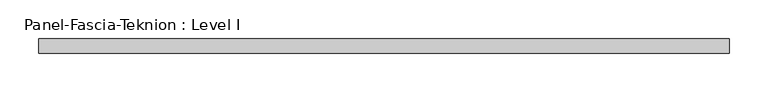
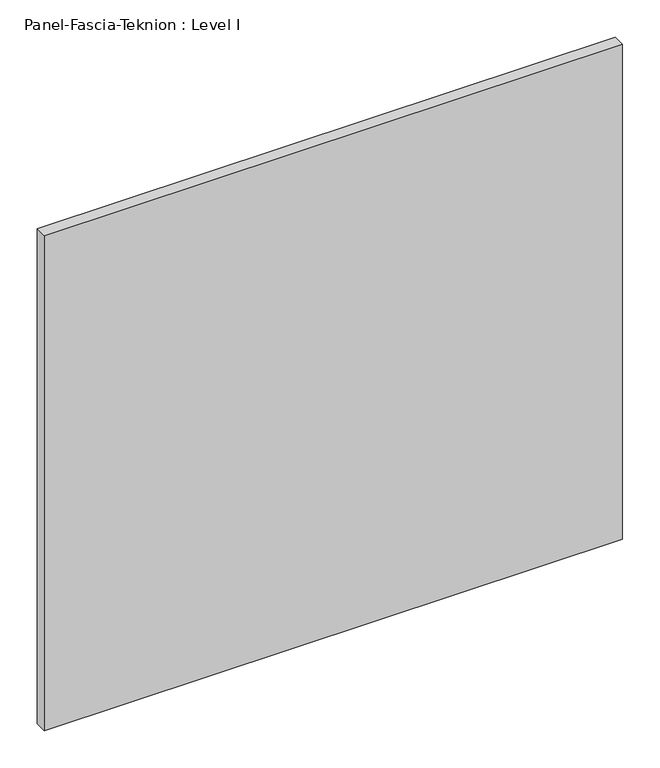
"""IFC4 building model written with IfcOpenShell, lengths in millimetres: proxy geometry, Panel-Fascia-Teknion : Level I."""

from ifc_helpers import new_model, si_unit, frame, origin, place, context, project, spatial, polyline, outline, extrude, source, transform, mapped, element, save


def panel_fascia_teknion_level_i_3efb392c(model_context):
    return source(origin(), model_context, "Body", "SweptSolid", [
        extrude(outline(polyline([(447.6253906, 9.525), (447.6253906, -9.525), (-447.6253906, -9.525), (-447.6253906, 9.525), (447.6253906, 9.525)])), frame((0.0, 0.0, 3.175), z_axis=(0.0, 0.0, 1.0), x_axis=(1.0, 0.0, 0.0)), (0.0, 0.0, 1.0), 810.768),
    ])


if __name__ == "__main__":
    model = new_model("IFC4")
    model_context = context("Model", 3, world=origin())
    ifc_project = project(units=[si_unit("LENGTHUNIT", "METRE", prefix="MILLI")], contexts=[model_context])
    site = spatial("IfcSite", under=ifc_project)
    building = spatial("IfcBuilding", under=site)
    placement = place(None, origin())
    panel_fascia_teknion_level_i_shape = panel_fascia_teknion_level_i_3efb392c(model_context)
    element("IfcBuildingElementProxy", 1, Name="Panel-Fascia-Teknion : Level I", ObjectType="Panel-Fascia-Teknion : Level I", at=placement, inside=building, context=model_context, shape_type="MappedRepresentation", body=[
        mapped(panel_fascia_teknion_level_i_shape, transform((0.0, 0.0, 0.0), x_axis=(1.0, 0.0, 0.0), y_axis=(0.0, 1.0, 0.0), z_axis=(0.0, 0.0, 1.0))),
    ])
    save(model, "model.ifc")
